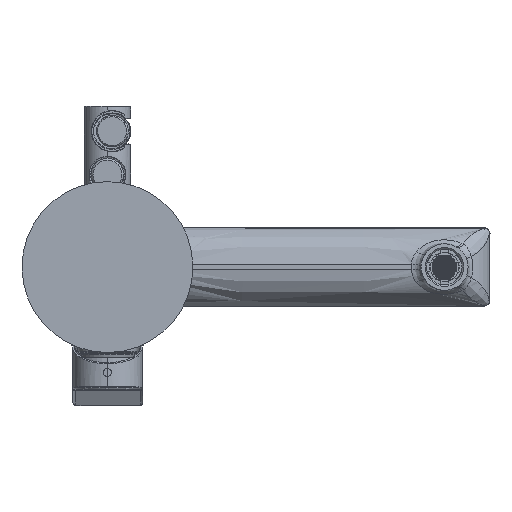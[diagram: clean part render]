
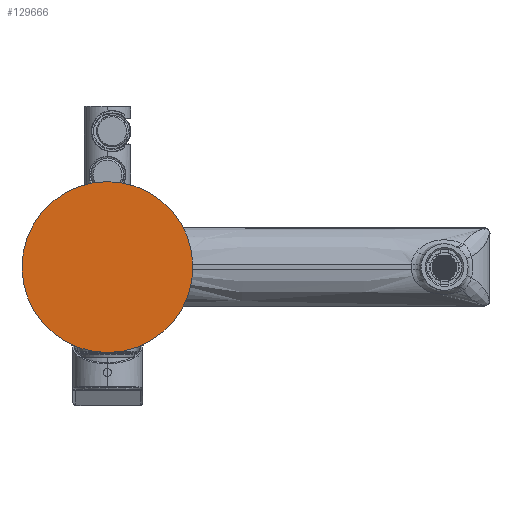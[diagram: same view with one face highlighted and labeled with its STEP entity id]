
A CAD part, front view. The second image highlights one B-rep face of the part: STEP entity #129666.
In plain terms, the highlighted planar face has unit normal (0, -1, 0).
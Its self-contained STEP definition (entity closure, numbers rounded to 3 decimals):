
#1065 = ORIENTED_EDGE ( 'NONE', *, *, #19155, .T. ) ;
#18580 = CARTESIAN_POINT ( 'NONE',  ( -320.452, -747.728, 9.991 ) ) ;
#19155 = EDGE_CURVE ( 'NONE', #131415, #81665, #90682, .T. ) ;
#28061 = DIRECTION ( 'NONE',  ( 0., -1., 0. ) ) ;
#29357 = CARTESIAN_POINT ( 'NONE',  ( -320.452, -747.728, 9.991 ) ) ;
#55019 = FACE_OUTER_BOUND ( 'NONE', #59661, .T. ) ;
#59455 = EDGE_CURVE ( 'NONE', #81665, #131415, #76410, .T. ) ;
#59661 = EDGE_LOOP ( 'NONE', ( #1065, #66734 ) ) ;
#66734 = ORIENTED_EDGE ( 'NONE', *, *, #59455, .T. ) ;
#68965 = CARTESIAN_POINT ( 'NONE',  ( -375.45, -747.728, 9.525 ) ) ;
#76410 = CIRCLE ( 'NONE', #95579, 55. ) ;
#78089 = DIRECTION ( 'NONE',  ( -1., 0., -0.008 ) ) ;
#80013 = AXIS2_PLACEMENT_3D ( 'NONE', #29357, #28061, #78089 ) ;
#81665 = VERTEX_POINT ( 'NONE', #125714 ) ;
#90682 = CIRCLE ( 'NONE', #80013, 55. ) ;
#95579 = AXIS2_PLACEMENT_3D ( 'NONE', #18580, #118702, #100002 ) ;
#95716 = PLANE ( 'NONE',  #102690 ) ;
#100002 = DIRECTION ( 'NONE',  ( -1., 0., -0.008 ) ) ;
#102690 = AXIS2_PLACEMENT_3D ( 'NONE', #127074, #117069, #107703 ) ;
#107703 = DIRECTION ( 'NONE',  ( 0., 0., -1. ) ) ;
#117069 = DIRECTION ( 'NONE',  ( 0., -1., 0. ) ) ;
#118702 = DIRECTION ( 'NONE',  ( 0., -1., 0. ) ) ;
#125714 = CARTESIAN_POINT ( 'NONE',  ( -265.454, -747.728, 10.458 ) ) ;
#127074 = CARTESIAN_POINT ( 'NONE',  ( -320.452, -747.728, 9.991 ) ) ;
#129666 = ADVANCED_FACE ( 'NONE', ( #55019 ), #95716, .T. ) ;
#131415 = VERTEX_POINT ( 'NONE', #68965 ) ;
